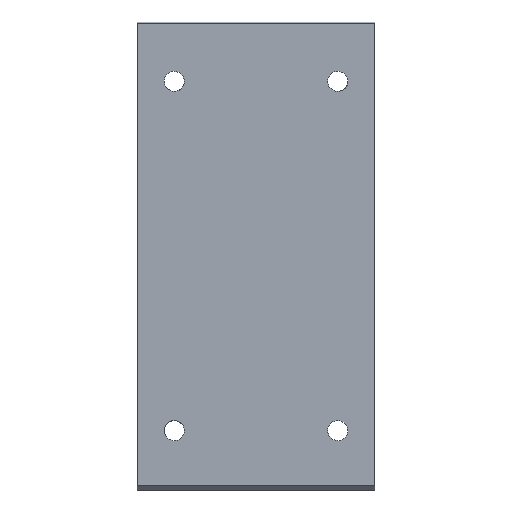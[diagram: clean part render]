
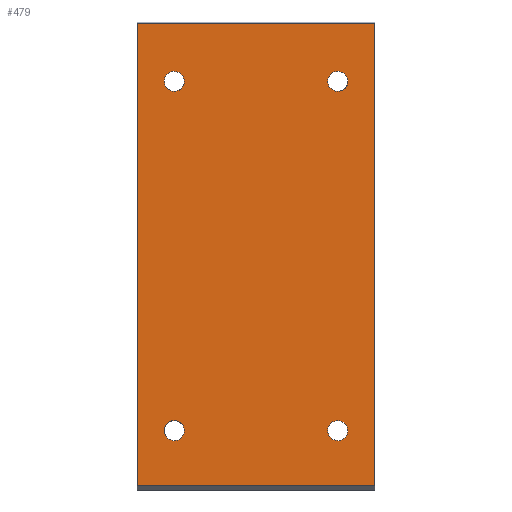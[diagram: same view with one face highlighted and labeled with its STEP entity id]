
A CAD part, left-side view. The second image highlights one B-rep face of the part: STEP entity #479.
In plain terms, the highlighted planar face has unit normal (-1, 0, 0).
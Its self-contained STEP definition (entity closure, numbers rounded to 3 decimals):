
#21 = CARTESIAN_POINT ( 'NONE',  ( 0., 49.076, 43.236 ) ) ;
#22 = CARTESIAN_POINT ( 'NONE',  ( 0., -55., 40. ) ) ;
#29 = ORIENTED_EDGE ( 'NONE', *, *, #875, .F. ) ;
#35 = B_SPLINE_CURVE_WITH_KNOTS ( 'NONE', 3,
 ( #179, #173, #192, #204, #208, #215, #223, #227, #232, #236, #242, #243, #176, #246, #259, #266, #278, #284 ),
 .UNSPECIFIED., .F., .F.,
 ( 4, 2, 2, 2, 2, 2, 2, 2, 4 ),
 ( 0., 0.125, 0.25, 0.375, 0.5, 0.625, 0.75, 0.875, 1. ),
 .UNSPECIFIED. ) ;
#39 = VERTEX_POINT ( 'NONE', #607 ) ;
#44 = DIRECTION ( 'NONE',  ( 0., 1., 0. ) ) ;
#48 = CARTESIAN_POINT ( 'NONE',  ( 0., -60.924, 278.236 ) ) ;
#50 = PLANE ( 'NONE',  #374 ) ;
#55 = DIRECTION ( 'NONE',  ( 0., 1., 0. ) ) ;
#57 = EDGE_CURVE ( 'NONE', #572, #755, #1005, .T. ) ;
#59 = CIRCLE ( 'NONE', #1018, 6.75 ) ;
#61 = LINE ( 'NONE', #477, #237 ) ;
#71 = CIRCLE ( 'NONE', #745, 6.75 ) ;
#78 = VERTEX_POINT ( 'NONE', #921 ) ;
#110 = ORIENTED_EDGE ( 'NONE', *, *, #330, .F. ) ;
#146 = ORIENTED_EDGE ( 'NONE', *, *, #396, .F. ) ;
#163 = EDGE_LOOP ( 'NONE', ( #146, #565, #686, #288 ) ) ;
#173 = CARTESIAN_POINT ( 'NONE',  ( 0., 49.5, 44.012 ) ) ;
#176 = CARTESIAN_POINT ( 'NONE',  ( 0., 61.228, 42.748 ) ) ;
#179 = CARTESIAN_POINT ( 'NONE',  ( 0., 49.076, 43.236 ) ) ;
#192 = CARTESIAN_POINT ( 'NONE',  ( 0., 50.078, 44.702 ) ) ;
#201 = CARTESIAN_POINT ( 'NONE',  ( 0., 0., 3. ) ) ;
#204 = CARTESIAN_POINT ( 'NONE',  ( 0., 51.454, 45.811 ) ) ;
#208 = CARTESIAN_POINT ( 'NONE',  ( 0., 52.252, 46.228 ) ) ;
#215 = CARTESIAN_POINT ( 'NONE',  ( 0., 53.947, 46.726 ) ) ;
#219 = DIRECTION ( 'NONE',  ( 0., 0., 1. ) ) ;
#222 = FACE_BOUND ( 'NONE', #332, .T. ) ;
#223 = CARTESIAN_POINT ( 'NONE',  ( 0., 54.844, 46.806 ) ) ;
#227 = CARTESIAN_POINT ( 'NONE',  ( 0., 56.601, 46.617 ) ) ;
#232 = CARTESIAN_POINT ( 'NONE',  ( 0., 57.461, 46.347 ) ) ;
#236 = CARTESIAN_POINT ( 'NONE',  ( 0., 59.012, 45.5 ) ) ;
#237 = VECTOR ( 'NONE', #44, 1000. ) ;
#239 = FACE_OUTER_BOUND ( 'NONE', #163, .T. ) ;
#242 = CARTESIAN_POINT ( 'NONE',  ( 0., 59.702, 44.922 ) ) ;
#243 = CARTESIAN_POINT ( 'NONE',  ( 0., 60.811, 43.546 ) ) ;
#246 = CARTESIAN_POINT ( 'NONE',  ( 0., 61.726, 41.053 ) ) ;
#259 = CARTESIAN_POINT ( 'NONE',  ( 0., 61.806, 40.156 ) ) ;
#266 = CARTESIAN_POINT ( 'NONE',  ( 0., 61.617, 38.399 ) ) ;
#271 = VERTEX_POINT ( 'NONE', #675 ) ;
#272 = ORIENTED_EDGE ( 'NONE', *, *, #597, .F. ) ;
#276 = EDGE_CURVE ( 'NONE', #271, #433, #687, .T. ) ;
#278 = CARTESIAN_POINT ( 'NONE',  ( 0., 61.347, 37.539 ) ) ;
#280 = VERTEX_POINT ( 'NONE', #617 ) ;
#283 = EDGE_CURVE ( 'NONE', #460, #1001, #663, .T. ) ;
#284 = CARTESIAN_POINT ( 'NONE',  ( 0., 60.924, 36.764 ) ) ;
#288 = ORIENTED_EDGE ( 'NONE', *, *, #314, .F. ) ;
#291 = CARTESIAN_POINT ( 'NONE',  ( 0., 60.924, 271.764 ) ) ;
#314 = EDGE_CURVE ( 'NONE', #78, #280, #595, .T. ) ;
#321 = DIRECTION ( 'NONE',  ( 0., -1., 0. ) ) ;
#326 = DIRECTION ( 'NONE',  ( -1., 0., 0. ) ) ;
#329 = CARTESIAN_POINT ( 'NONE',  ( 0., 55., 275. ) ) ;
#330 = EDGE_CURVE ( 'NONE', #433, #271, #455, .T. ) ;
#332 = EDGE_LOOP ( 'NONE', ( #546, #463 ) ) ;
#336 = AXIS2_PLACEMENT_3D ( 'NONE', #329, #326, #321 ) ;
#350 = ORIENTED_EDGE ( 'NONE', *, *, #276, .F. ) ;
#372 = CARTESIAN_POINT ( 'NONE',  ( 0., -80., 3. ) ) ;
#374 = AXIS2_PLACEMENT_3D ( 'NONE', #201, #415, #805 ) ;
#391 = FACE_BOUND ( 'NONE', #943, .T. ) ;
#396 = EDGE_CURVE ( 'NONE', #925, #78, #61, .T. ) ;
#397 = CARTESIAN_POINT ( 'NONE',  ( 0., -49.076, 36.764 ) ) ;
#407 = FACE_BOUND ( 'NONE', #606, .T. ) ;
#415 = DIRECTION ( 'NONE',  ( -1., 0., 0. ) ) ;
#428 = VECTOR ( 'NONE', #435, 1000. ) ;
#433 = VERTEX_POINT ( 'NONE', #291 ) ;
#435 = DIRECTION ( 'NONE',  ( 0., 0., 1. ) ) ;
#436 = AXIS2_PLACEMENT_3D ( 'NONE', #612, #609, #594 ) ;
#443 = CARTESIAN_POINT ( 'NONE',  ( 0., 80., 158.5 ) ) ;
#445 = LINE ( 'NONE', #806, #989 ) ;
#455 = CIRCLE ( 'NONE', #336, 6.75 ) ;
#460 = VERTEX_POINT ( 'NONE', #466 ) ;
#463 = ORIENTED_EDGE ( 'NONE', *, *, #648, .F. ) ;
#466 = CARTESIAN_POINT ( 'NONE',  ( 0., -60.924, 43.236 ) ) ;
#477 = CARTESIAN_POINT ( 'NONE',  ( 0., 0., 3. ) ) ;
#479 = ADVANCED_FACE ( 'NONE', ( #239, #762, #391, #407, #222 ), #50, .T. ) ;
#507 = VERTEX_POINT ( 'NONE', #852 ) ;
#512 = DIRECTION ( 'NONE',  ( 0., -1., 0. ) ) ;
#520 = DIRECTION ( 'NONE',  ( -1., 0., 0. ) ) ;
#532 = EDGE_CURVE ( 'NONE', #39, #857, #71, .T. ) ;
#535 = CARTESIAN_POINT ( 'NONE',  ( 0., -55., 40. ) ) ;
#546 = ORIENTED_EDGE ( 'NONE', *, *, #532, .F. ) ;
#550 = CARTESIAN_POINT ( 'NONE',  ( 0., 60.924, 36.764 ) ) ;
#565 = ORIENTED_EDGE ( 'NONE', *, *, #838, .T. ) ;
#572 = VERTEX_POINT ( 'NONE', #550 ) ;
#573 = ORIENTED_EDGE ( 'NONE', *, *, #57, .F. ) ;
#594 = DIRECTION ( 'NONE',  ( 0., -1., 0. ) ) ;
#595 = LINE ( 'NONE', #443, #428 ) ;
#597 = EDGE_CURVE ( 'NONE', #1001, #460, #59, .T. ) ;
#606 = EDGE_LOOP ( 'NONE', ( #573, #29 ) ) ;
#607 = CARTESIAN_POINT ( 'NONE',  ( 0., -49.076, 271.764 ) ) ;
#609 = DIRECTION ( 'NONE',  ( -1., 0., 0. ) ) ;
#610 = EDGE_CURVE ( 'NONE', #507, #280, #445, .T. ) ;
#612 = CARTESIAN_POINT ( 'NONE',  ( 0., 55., 275. ) ) ;
#617 = CARTESIAN_POINT ( 'NONE',  ( 0., 80., 314. ) ) ;
#645 = DIRECTION ( 'NONE',  ( 0., -1., 0. ) ) ;
#648 = EDGE_CURVE ( 'NONE', #857, #39, #941, .T. ) ;
#663 = CIRCLE ( 'NONE', #780, 6.75 ) ;
#675 = CARTESIAN_POINT ( 'NONE',  ( 0., 49.076, 278.236 ) ) ;
#686 = ORIENTED_EDGE ( 'NONE', *, *, #610, .T. ) ;
#687 = CIRCLE ( 'NONE', #436, 6.75 ) ;
#692 = CARTESIAN_POINT ( 'NONE',  ( 0., -80., 158.5 ) ) ;
#700 = DIRECTION ( 'NONE',  ( 0., -1., 0. ) ) ;
#705 = CARTESIAN_POINT ( 'NONE',  ( 0., -55., 275. ) ) ;
#708 = ORIENTED_EDGE ( 'NONE', *, *, #283, .F. ) ;
#709 = DIRECTION ( 'NONE',  ( 0., -1., 0. ) ) ;
#722 = DIRECTION ( 'NONE',  ( -1., 0., 0. ) ) ;
#735 = VECTOR ( 'NONE', #219, 1000. ) ;
#743 = DIRECTION ( 'NONE',  ( -1., 0., 0. ) ) ;
#745 = AXIS2_PLACEMENT_3D ( 'NONE', #988, #994, #645 ) ;
#755 = VERTEX_POINT ( 'NONE', #21 ) ;
#762 = FACE_BOUND ( 'NONE', #822, .T. ) ;
#773 = AXIS2_PLACEMENT_3D ( 'NONE', #860, #913, #963 ) ;
#780 = AXIS2_PLACEMENT_3D ( 'NONE', #535, #520, #512 ) ;
#803 = LINE ( 'NONE', #692, #735 ) ;
#805 = DIRECTION ( 'NONE',  ( 0., 0., 1. ) ) ;
#806 = CARTESIAN_POINT ( 'NONE',  ( 0., 0., 314. ) ) ;
#822 = EDGE_LOOP ( 'NONE', ( #272, #708 ) ) ;
#838 = EDGE_CURVE ( 'NONE', #925, #507, #803, .T. ) ;
#852 = CARTESIAN_POINT ( 'NONE',  ( 0., -80., 314. ) ) ;
#857 = VERTEX_POINT ( 'NONE', #48 ) ;
#860 = CARTESIAN_POINT ( 'NONE',  ( 0., 55., 40. ) ) ;
#875 = EDGE_CURVE ( 'NONE', #755, #572, #35, .T. ) ;
#884 = AXIS2_PLACEMENT_3D ( 'NONE', #705, #722, #700 ) ;
#913 = DIRECTION ( 'NONE',  ( -1., 0., 0. ) ) ;
#921 = CARTESIAN_POINT ( 'NONE',  ( 0., 80., 3. ) ) ;
#925 = VERTEX_POINT ( 'NONE', #372 ) ;
#941 = CIRCLE ( 'NONE', #884, 6.75 ) ;
#943 = EDGE_LOOP ( 'NONE', ( #110, #350 ) ) ;
#963 = DIRECTION ( 'NONE',  ( 0., -1., 0. ) ) ;
#988 = CARTESIAN_POINT ( 'NONE',  ( 0., -55., 275. ) ) ;
#989 = VECTOR ( 'NONE', #55, 1000. ) ;
#994 = DIRECTION ( 'NONE',  ( -1., 0., 0. ) ) ;
#1001 = VERTEX_POINT ( 'NONE', #397 ) ;
#1005 = CIRCLE ( 'NONE', #773, 6.75 ) ;
#1018 = AXIS2_PLACEMENT_3D ( 'NONE', #22, #743, #709 ) ;
